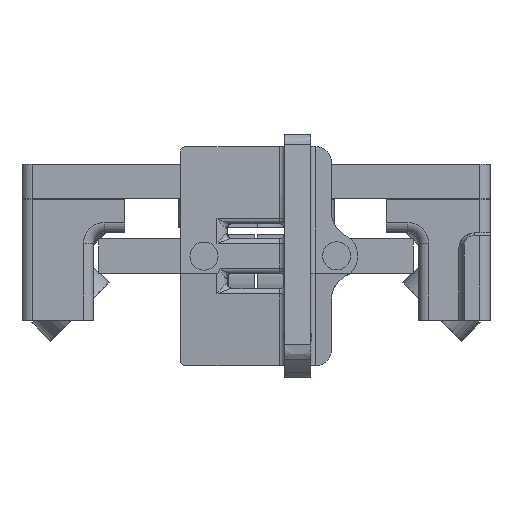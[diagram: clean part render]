
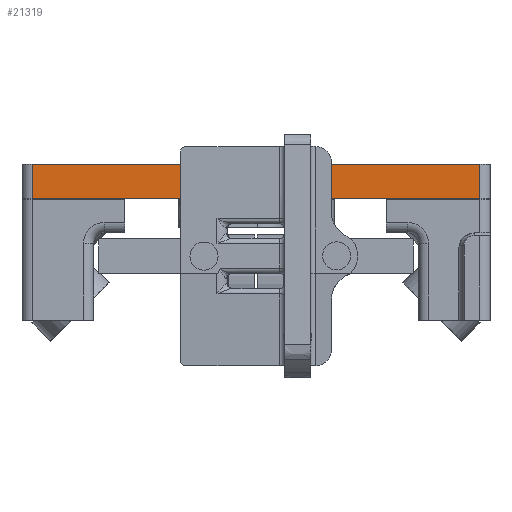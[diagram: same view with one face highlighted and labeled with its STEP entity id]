
A CAD part, front view. The second image highlights one B-rep face of the part: STEP entity #21319.
In plain terms, the highlighted planar face has unit normal (0, -1, 0).
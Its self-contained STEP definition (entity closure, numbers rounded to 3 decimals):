
#1287=PLANE('',#22668);
#1688=FACE_OUTER_BOUND('',#2838,.T.);
#2838=EDGE_LOOP('',(#14556,#14557,#14558,#14559));
#4797=LINE('',#32247,#6229);
#4798=LINE('',#32250,#6230);
#4799=LINE('',#32252,#6231);
#4800=LINE('',#32253,#6232);
#6229=VECTOR('',#25662,10.);
#6230=VECTOR('',#25665,10.);
#6231=VECTOR('',#25666,10.);
#6232=VECTOR('',#25667,10.);
#9138=VERTEX_POINT('',#32240);
#9141=VERTEX_POINT('',#32245);
#9142=VERTEX_POINT('',#32249);
#9143=VERTEX_POINT('',#32251);
#11297=EDGE_CURVE('',#9141,#9138,#4797,.T.);
#11298=EDGE_CURVE('',#9141,#9142,#4798,.T.);
#11299=EDGE_CURVE('',#9143,#9142,#4799,.T.);
#11300=EDGE_CURVE('',#9138,#9143,#4800,.T.);
#14556=ORIENTED_EDGE('',*,*,#11297,.F.);
#14557=ORIENTED_EDGE('',*,*,#11298,.T.);
#14558=ORIENTED_EDGE('',*,*,#11299,.F.);
#14559=ORIENTED_EDGE('',*,*,#11300,.F.);
#21319=ADVANCED_FACE('',(#1688),#1287,.F.);
#22668=AXIS2_PLACEMENT_3D('',#32248,#25663,#25664);
#25662=DIRECTION('',(0.,0.,-1.));
#25663=DIRECTION('center_axis',(0.,1.,0.));
#25664=DIRECTION('ref_axis',(1.,0.,0.));
#25665=DIRECTION('',(-1.,0.,0.));
#25666=DIRECTION('',(0.,0.,1.));
#25667=DIRECTION('',(-1.,0.,0.));
#32240=CARTESIAN_POINT('',(73.,0.,7.75));
#32245=CARTESIAN_POINT('',(73.,0.,14.35));
#32247=CARTESIAN_POINT('',(73.,0.,12.7));
#32248=CARTESIAN_POINT('Origin',(30.,0.,11.05));
#32249=CARTESIAN_POINT('',(-13.,0.,14.35));
#32250=CARTESIAN_POINT('',(5.,0.,14.35));
#32251=CARTESIAN_POINT('',(-13.,0.,7.75));
#32252=CARTESIAN_POINT('',(-13.,0.,12.7));
#32253=CARTESIAN_POINT('',(55.,0.,7.75));
